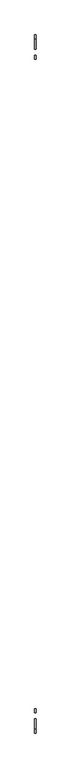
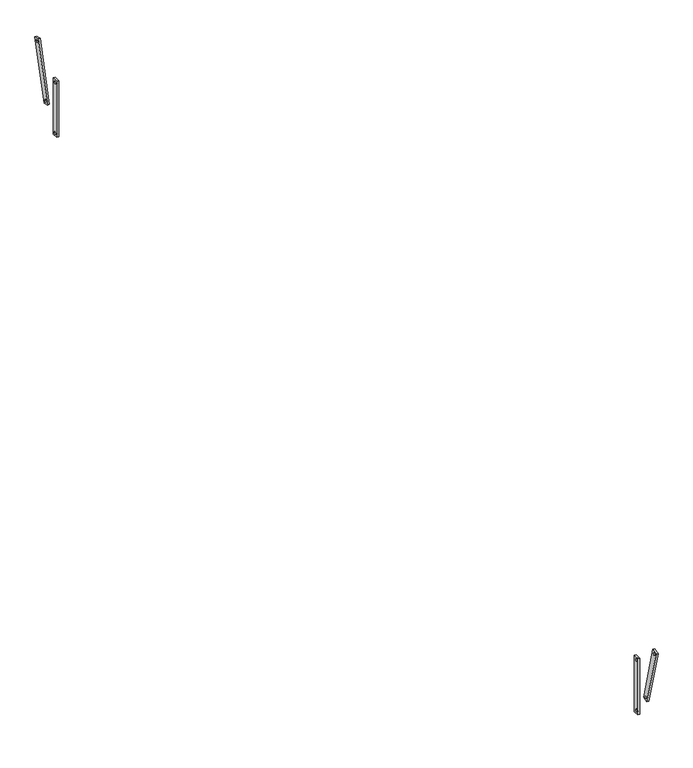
"""IFC4 building model written with IfcOpenShell, lengths in millimetres: proxy geometry, Modelos genéricos 293 : Modelos genéricos 278."""

from ifc_helpers import new_model, si_unit, point, frame, frame_2d, origin, place, context, project, spatial, polyline, circle_curve, trimmed, segment, composite_curve, outline, extrude, source, transform, mapped, element, save


def generic_models_28ea765f(model_context):
    return source(origin(), model_context, "Body", "SweptSolid", [
        extrude(outline(polyline([(5318.6238165, 2800.0), (5318.6238165, 3200.0), (5358.6238165, 3200.0), (5358.6238165, 2800.0), (5318.6238165, 2800.0)]), holes=[composite_curve([segment(trimmed(circle_curve(frame_2d((5338.6238165, 3180.0)), 7.5), [point((5346.1238165, 3180.0))], [point((5331.1238165, 3180.0))], True, "CARTESIAN"), True, "CONTINUOUS"), segment(trimmed(circle_curve(frame_2d((5338.6238165, 3180.0)), 7.5), [point((5331.1238165, 3180.0))], [point((5346.1238165, 3180.0))], True, "CARTESIAN"), True, "CONTINUOUS")], self_intersect=False), composite_curve([segment(trimmed(circle_curve(frame_2d((5338.6238165, 2820.0)), 7.5), [point((5346.1238165, 2820.0))], [point((5331.1238165, 2820.0))], True, "CARTESIAN"), True, "CONTINUOUS"), segment(trimmed(circle_curve(frame_2d((5338.6238165, 2820.0)), 7.5), [point((5331.1238165, 2820.0))], [point((5346.1238165, 2820.0))], True, "CARTESIAN"), True, "CONTINUOUS")], self_intersect=False)]), frame((12860.7472467, 0.0, 0.0), z_axis=(1.0, 0.0, 0.0), x_axis=(0.0, 1.0, 0.0)), (0.0, 0.0, 1.0), 12.7),
        extrude(outline(polyline([(5424.7907615, 2966.5419368), (5533.4947604, 3372.2307838), (5572.1317934, 3361.878022), (5463.4277945, 2956.1891749), (5424.7907615, 2966.5419368)]), holes=[composite_curve([segment(trimmed(circle_curve(frame_2d((5547.636896, 3347.7358864)), 7.5), [point((5554.8813397, 3345.7947435))], [point((5540.3924523, 3349.6770292))], True, "CARTESIAN"), True, "CONTINUOUS"), segment(trimmed(circle_curve(frame_2d((5547.636896, 3347.7358864)), 7.5), [point((5540.3924523, 3349.6770292))], [point((5554.8813397, 3345.7947435))], True, "CARTESIAN"), True, "CONTINUOUS")], self_intersect=False), composite_curve([segment(trimmed(circle_curve(frame_2d((5449.2856589, 2980.6840724)), 7.5), [point((5456.5301026, 2978.7429295))], [point((5442.0412152, 2982.6252152))], True, "CARTESIAN"), True, "CONTINUOUS"), segment(trimmed(circle_curve(frame_2d((5449.2856589, 2980.6840724)), 7.5), [point((5442.0412152, 2982.6252152))], [point((5456.5301026, 2978.7429295))], True, "CARTESIAN"), True, "CONTINUOUS")], self_intersect=False)]), frame((12860.7472467, 0.0, 0.0), z_axis=(1.0, 0.0, 0.0), x_axis=(0.0, 1.0, 0.0)), (0.0, 0.0, 1.0), 12.7),
        extrude(outline(polyline([(-1421.3761835, 2800.0), (-1461.3761835, 2800.0), (-1461.3761835, 3200.0), (-1421.3761835, 3200.0), (-1421.3761835, 2800.0)]), holes=[composite_curve([segment(trimmed(circle_curve(frame_2d((-1441.3761835, 3180.0)), 7.5), [point((-1448.8761835, 3180.0))], [point((-1433.8761835, 3180.0))], True, "CARTESIAN"), True, "CONTINUOUS"), segment(trimmed(circle_curve(frame_2d((-1441.3761835, 3180.0)), 7.5), [point((-1433.8761835, 3180.0))], [point((-1448.8761835, 3180.0))], True, "CARTESIAN"), True, "CONTINUOUS")], self_intersect=False), composite_curve([segment(trimmed(circle_curve(frame_2d((-1441.3761835, 2820.0)), 7.5), [point((-1448.8761835, 2820.0))], [point((-1433.8761835, 2820.0))], True, "CARTESIAN"), True, "CONTINUOUS"), segment(trimmed(circle_curve(frame_2d((-1441.3761835, 2820.0)), 7.5), [point((-1433.8761835, 2820.0))], [point((-1448.8761835, 2820.0))], True, "CARTESIAN"), True, "CONTINUOUS")], self_intersect=False)]), frame((12860.7472467, 0.0, 0.0), z_axis=(1.0, 0.0, 0.0), x_axis=(0.0, 1.0, 0.0)), (0.0, 0.0, 1.0), 12.7),
        extrude(outline(polyline([(-1527.5431285, 2966.5419368), (-1566.1801615, 2956.1891749), (-1674.8841605, 3361.878022), (-1636.2471274, 3372.2307838), (-1527.5431285, 2966.5419368)]), holes=[composite_curve([segment(trimmed(circle_curve(frame_2d((-1650.389263, 3347.7358864)), 7.5), [point((-1657.6337067, 3345.7947435))], [point((-1643.1448193, 3349.6770292))], True, "CARTESIAN"), True, "CONTINUOUS"), segment(trimmed(circle_curve(frame_2d((-1650.389263, 3347.7358864)), 7.5), [point((-1643.1448193, 3349.6770292))], [point((-1657.6337067, 3345.7947435))], True, "CARTESIAN"), True, "CONTINUOUS")], self_intersect=False), composite_curve([segment(trimmed(circle_curve(frame_2d((-1552.0380259, 2980.6840724)), 7.5), [point((-1559.2824696, 2978.7429295))], [point((-1544.7935822, 2982.6252152))], True, "CARTESIAN"), True, "CONTINUOUS"), segment(trimmed(circle_curve(frame_2d((-1552.0380259, 2980.6840724)), 7.5), [point((-1544.7935822, 2982.6252152))], [point((-1559.2824696, 2978.7429295))], True, "CARTESIAN"), True, "CONTINUOUS")], self_intersect=False)]), frame((12860.7472467, 0.0, 0.0), z_axis=(1.0, 0.0, 0.0), x_axis=(0.0, 1.0, 0.0)), (0.0, 0.0, 1.0), 12.7),
    ])


if __name__ == "__main__":
    model = new_model("IFC4")
    model_context = context("Model", 3, world=origin())
    ifc_project = project(units=[si_unit("LENGTHUNIT", "METRE", prefix="MILLI")], contexts=[model_context])
    site = spatial("IfcSite", under=ifc_project)
    building = spatial("IfcBuilding", under=site)
    placement = place(None, origin())
    generic_models_shape = generic_models_28ea765f(model_context)
    element("IfcBuildingElementProxy", 1, Name="Modelos genéricos 293 : Modelos genéricos 278", ObjectType="Modelos genéricos 293 : Modelos genéricos 278", at=placement, inside=building, context=model_context, shape_type="MappedRepresentation", body=[
        mapped(generic_models_shape, transform((0.0, 0.0, 0.0), x_axis=(1.0, 0.0, 0.0), y_axis=(0.0, 1.0, 0.0), z_axis=(0.0, 0.0, 1.0))),
    ])
    save(model, "model.ifc")
